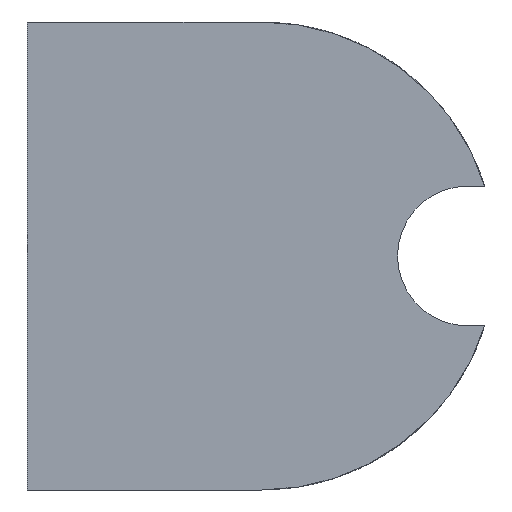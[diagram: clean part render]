
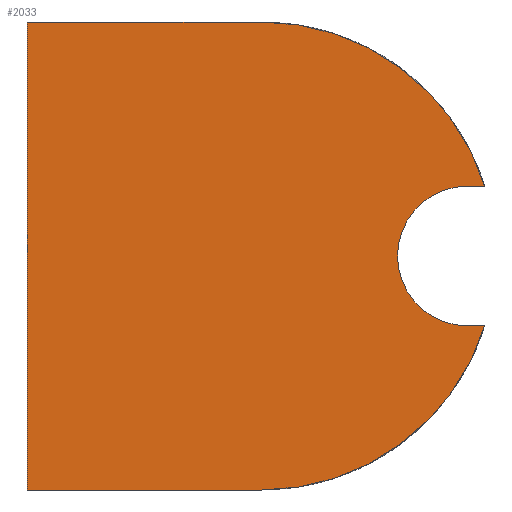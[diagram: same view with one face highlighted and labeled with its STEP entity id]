
A CAD part, front view. The second image highlights one B-rep face of the part: STEP entity #2033.
In plain terms, the highlighted planar face has unit normal (0, -1, 0).
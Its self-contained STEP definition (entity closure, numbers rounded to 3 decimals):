
#14 = CARTESIAN_POINT ( 'NONE',  ( 0., -2., -67. ) ) ;
#25 = DIRECTION ( 'NONE',  ( 0., 0., 1. ) ) ;
#28 = VERTEX_POINT ( 'NONE', #592 ) ;
#29 = LINE ( 'NONE', #1592, #2318 ) ;
#71 = LINE ( 'NONE', #265, #1660 ) ;
#120 = ORIENTED_EDGE ( 'NONE', *, *, #534, .T. ) ;
#121 = AXIS2_PLACEMENT_3D ( 'NONE', #997, #1783, #25 ) ;
#148 = VERTEX_POINT ( 'NONE', #2393 ) ;
#166 = PLANE ( 'NONE',  #1900 ) ;
#211 = VERTEX_POINT ( 'NONE', #738 ) ;
#265 = CARTESIAN_POINT ( 'NONE',  ( -67., -2., 67. ) ) ;
#286 = CARTESIAN_POINT ( 'NONE',  ( 0., -2., -67. ) ) ;
#343 = EDGE_CURVE ( 'NONE', #148, #1962, #29, .T. ) ;
#370 = EDGE_CURVE ( 'NONE', #1389, #1910, #2118, .T. ) ;
#501 = DIRECTION ( 'NONE',  ( 0., 0., 1. ) ) ;
#532 = ORIENTED_EDGE ( 'NONE', *, *, #675, .F. ) ;
#534 = EDGE_CURVE ( 'NONE', #1706, #148, #1958, .T. ) ;
#543 = ORIENTED_EDGE ( 'NONE', *, *, #343, .T. ) ;
#592 = CARTESIAN_POINT ( 'NONE',  ( -67., -2., 67. ) ) ;
#595 = VECTOR ( 'NONE', #2177, 1000. ) ;
#675 = EDGE_CURVE ( 'NONE', #211, #1389, #2116, .T. ) ;
#694 = DIRECTION ( 'NONE',  ( 0., 0., 1. ) ) ;
#714 = ORIENTED_EDGE ( 'NONE', *, *, #1692, .F. ) ;
#738 = CARTESIAN_POINT ( 'NONE',  ( 63.945, -2., -20. ) ) ;
#771 = ORIENTED_EDGE ( 'NONE', *, *, #971, .F. ) ;
#782 = DIRECTION ( 'NONE',  ( 0., 1., 0. ) ) ;
#803 = CARTESIAN_POINT ( 'NONE',  ( 63.945, -2., 20. ) ) ;
#807 = CARTESIAN_POINT ( 'NONE',  ( 59., -2., -20. ) ) ;
#889 = LINE ( 'NONE', #1484, #1493 ) ;
#924 = CARTESIAN_POINT ( 'NONE',  ( -67., -2., -67. ) ) ;
#935 = CARTESIAN_POINT ( 'NONE',  ( 0., -2., 67. ) ) ;
#950 = AXIS2_PLACEMENT_3D ( 'NONE', #2444, #2455, #501 ) ;
#971 = EDGE_CURVE ( 'NONE', #1647, #1962, #2259, .T. ) ;
#994 = ORIENTED_EDGE ( 'NONE', *, *, #1769, .F. ) ;
#997 = CARTESIAN_POINT ( 'NONE',  ( 59., -2., 0. ) ) ;
#1001 = DIRECTION ( 'NONE',  ( -1., 0., 0. ) ) ;
#1015 = DIRECTION ( 'NONE',  ( 1., 0., 0. ) ) ;
#1052 = EDGE_LOOP ( 'NONE', ( #2029, #120, #543, #771, #714, #994, #2049, #532 ) ) ;
#1347 = AXIS2_PLACEMENT_3D ( 'NONE', #1494, #1515, #2459 ) ;
#1389 = VERTEX_POINT ( 'NONE', #286 ) ;
#1484 = CARTESIAN_POINT ( 'NONE',  ( -67., -2., -67. ) ) ;
#1493 = VECTOR ( 'NONE', #694, 1000. ) ;
#1494 = CARTESIAN_POINT ( 'NONE',  ( 0., -2., 0. ) ) ;
#1515 = DIRECTION ( 'NONE',  ( 0., 1., 0. ) ) ;
#1548 = CARTESIAN_POINT ( 'NONE',  ( 0., -2., 0. ) ) ;
#1592 = CARTESIAN_POINT ( 'NONE',  ( 59., -2., 20. ) ) ;
#1647 = VERTEX_POINT ( 'NONE', #935 ) ;
#1660 = VECTOR ( 'NONE', #1015, 1000. ) ;
#1692 = EDGE_CURVE ( 'NONE', #28, #1647, #71, .T. ) ;
#1706 = VERTEX_POINT ( 'NONE', #807 ) ;
#1751 = LINE ( 'NONE', #1978, #595 ) ;
#1769 = EDGE_CURVE ( 'NONE', #1910, #28, #889, .T. ) ;
#1783 = DIRECTION ( 'NONE',  ( 0., 1., 0. ) ) ;
#1900 = AXIS2_PLACEMENT_3D ( 'NONE', #1548, #782, #2312 ) ;
#1910 = VERTEX_POINT ( 'NONE', #924 ) ;
#1958 = CIRCLE ( 'NONE', #121, 20. ) ;
#1962 = VERTEX_POINT ( 'NONE', #803 ) ;
#1978 = CARTESIAN_POINT ( 'NONE',  ( 59., -2., -20. ) ) ;
#2029 = ORIENTED_EDGE ( 'NONE', *, *, #2275, .F. ) ;
#2033 = ADVANCED_FACE ( 'NONE', ( #2151 ), #166, .F. ) ;
#2049 = ORIENTED_EDGE ( 'NONE', *, *, #370, .F. ) ;
#2078 = VECTOR ( 'NONE', #1001, 1000. ) ;
#2116 = CIRCLE ( 'NONE', #1347, 67. ) ;
#2118 = LINE ( 'NONE', #14, #2078 ) ;
#2151 = FACE_OUTER_BOUND ( 'NONE', #1052, .T. ) ;
#2162 = DIRECTION ( 'NONE',  ( 1., 0., 0. ) ) ;
#2177 = DIRECTION ( 'NONE',  ( 1., 0., 0. ) ) ;
#2259 = CIRCLE ( 'NONE', #950, 67. ) ;
#2275 = EDGE_CURVE ( 'NONE', #1706, #211, #1751, .T. ) ;
#2312 = DIRECTION ( 'NONE',  ( 0., 0., 1. ) ) ;
#2318 = VECTOR ( 'NONE', #2162, 1000. ) ;
#2393 = CARTESIAN_POINT ( 'NONE',  ( 59., -2., 20. ) ) ;
#2444 = CARTESIAN_POINT ( 'NONE',  ( 0., -2., 0. ) ) ;
#2455 = DIRECTION ( 'NONE',  ( 0., 1., 0. ) ) ;
#2459 = DIRECTION ( 'NONE',  ( 0., 0., 1. ) ) ;
